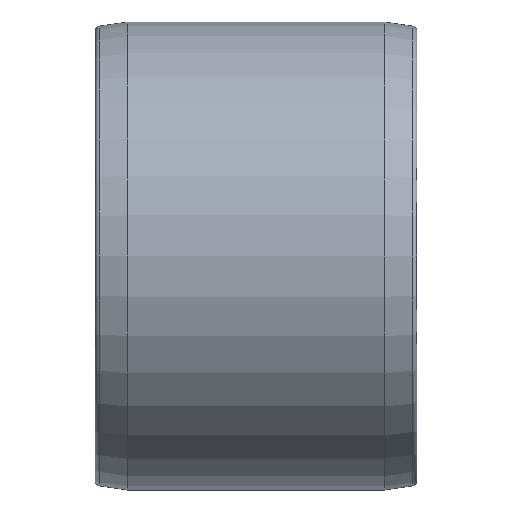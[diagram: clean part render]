
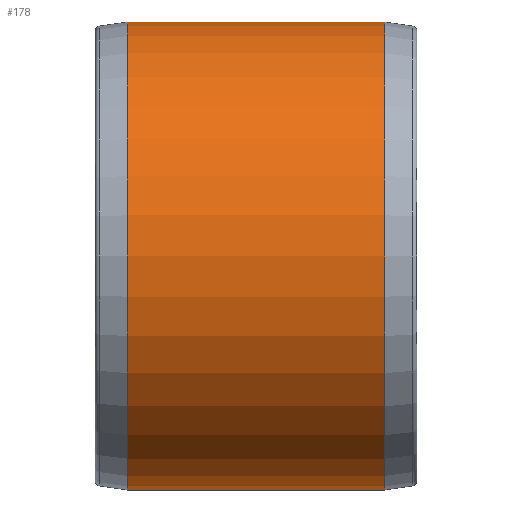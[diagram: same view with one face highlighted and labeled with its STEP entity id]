
A CAD part, front view. The second image highlights one B-rep face of the part: STEP entity #178.
In plain terms, the highlighted cylindrical face has radius 16 mm (diameter 32 mm), a full revolution.
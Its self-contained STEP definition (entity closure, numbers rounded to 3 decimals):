
#20=CYLINDRICAL_SURFACE('',#210,16.);
#38=FACE_BOUND('',#82,.T.);
#53=FACE_OUTER_BOUND('',#81,.T.);
#81=EDGE_LOOP('',(#156));
#82=EDGE_LOOP('',(#157));
#92=CIRCLE('',#196,16.);
#98=CIRCLE('',#207,16.);
#107=VERTEX_POINT('',#296);
#113=VERTEX_POINT('',#313);
#122=EDGE_CURVE('',#107,#107,#92,.T.);
#128=EDGE_CURVE('',#113,#113,#98,.T.);
#156=ORIENTED_EDGE('',*,*,#122,.F.);
#157=ORIENTED_EDGE('',*,*,#128,.F.);
#178=ADVANCED_FACE('',(#53,#38),#20,.T.);
#196=AXIS2_PLACEMENT_3D('',#297,#242,#243);
#207=AXIS2_PLACEMENT_3D('',#314,#264,#265);
#210=AXIS2_PLACEMENT_3D('',#318,#270,#271);
#242=DIRECTION('center_axis',(1.,0.,0.));
#243=DIRECTION('ref_axis',(0.,0.,-1.));
#264=DIRECTION('center_axis',(-1.,0.,0.));
#265=DIRECTION('ref_axis',(0.,-1.,0.));
#270=DIRECTION('center_axis',(1.,0.,0.));
#271=DIRECTION('ref_axis',(0.,1.,0.));
#296=CARTESIAN_POINT('',(-2.2,16.,0.));
#297=CARTESIAN_POINT('Origin',(-2.2,0.,0.));
#313=CARTESIAN_POINT('',(-19.8,16.,0.));
#314=CARTESIAN_POINT('Origin',(-19.8,0.,0.));
#318=CARTESIAN_POINT('Origin',(-12.1,0.,0.));
